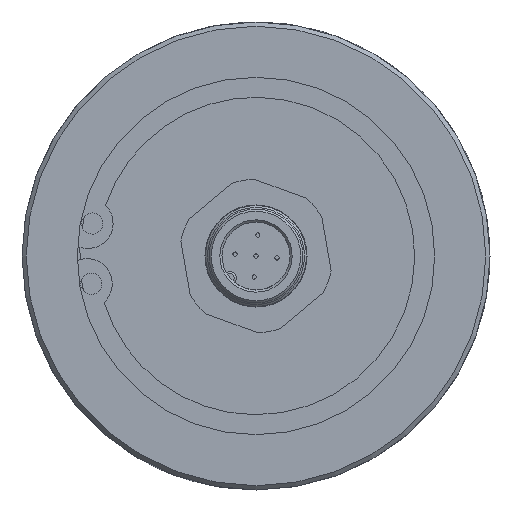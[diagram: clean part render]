
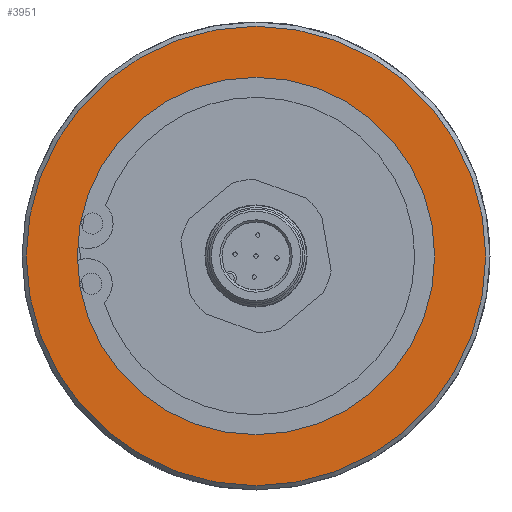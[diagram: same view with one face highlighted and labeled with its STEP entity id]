
A CAD part, left-side view. The second image highlights one B-rep face of the part: STEP entity #3951.
In plain terms, the highlighted planar face has unit normal (-1, 0, 0).
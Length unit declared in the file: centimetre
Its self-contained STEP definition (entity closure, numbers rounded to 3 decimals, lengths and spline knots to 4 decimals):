
#996=PLANE('',#4242);
#1068=VERTEX_POINT('',#5499);
#1088=VERTEX_POINT('',#5546);
#1422=CIRCLE('',#4226,2.1);
#1430=CIRCLE('',#4241,2.7);
#1610=EDGE_CURVE('',#1068,#1068,#1422,.T.);
#1633=EDGE_CURVE('',#1088,#1088,#1430,.T.);
#2151=ORIENTED_EDGE('',*,*,#1610,.T.);
#2152=ORIENTED_EDGE('',*,*,#1633,.F.);
#3155=EDGE_LOOP('',(#2151));
#3156=EDGE_LOOP('',(#2152));
#3557=FACE_BOUND('',#3155,.T.);
#3558=FACE_BOUND('',#3156,.T.);
#3951=ADVANCED_FACE('',(#3557,#3558),#996,.F.);
#4226=AXIS2_PLACEMENT_3D('',#5498,#4633,#4634);
#4241=AXIS2_PLACEMENT_3D('',#5545,#4667,#4668);
#4242=AXIS2_PLACEMENT_3D('',#5547,#4669,$);
#4633=DIRECTION('',(1.,0.,0.));
#4634=DIRECTION('',(0.,0.,-2.1));
#4667=DIRECTION('',(1.,0.,0.));
#4668=DIRECTION('',(0.,0.,2.7));
#4669=DIRECTION('',(1.,0.,0.));
#5498=CARTESIAN_POINT('',(-4.2,0.,0.));
#5499=CARTESIAN_POINT('',(-4.2,0.,-2.1));
#5545=CARTESIAN_POINT('',(-4.2,0.,0.));
#5546=CARTESIAN_POINT('',(-4.2,0.,-2.7));
#5547=CARTESIAN_POINT('',(-4.2,0.,0.));
